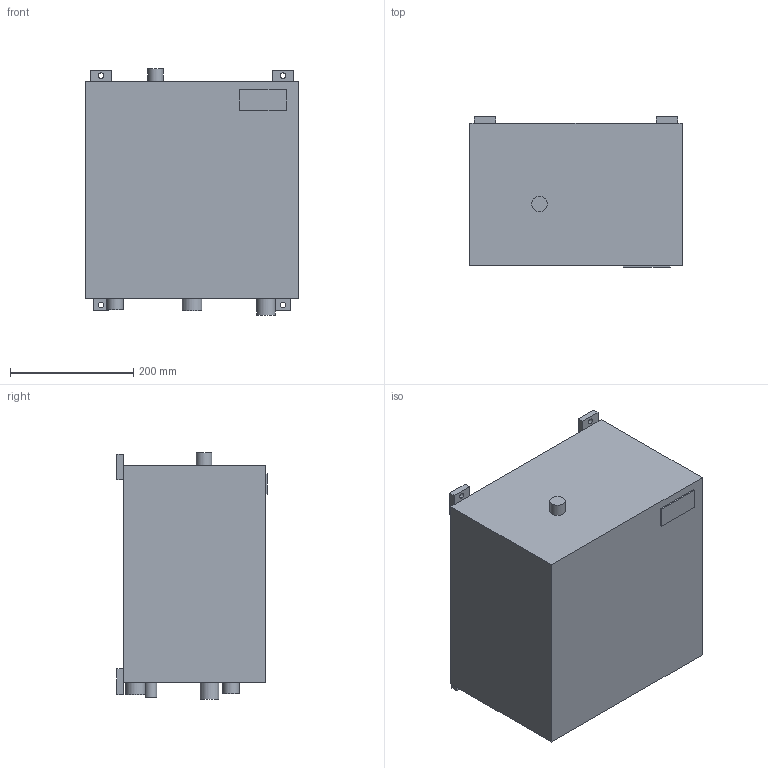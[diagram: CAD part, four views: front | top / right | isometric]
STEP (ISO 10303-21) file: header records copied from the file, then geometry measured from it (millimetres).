
FILE_DESCRIPTION(/* description */ ('AP214'),/* implementation_level */ '2;1');
FILE_NAME(/* name */ 'SLE02-V',/* time_stamp */ '2018-04-05T09:56:10+02:00',/* author */ ('M.Schreck'),/* organization */ ('Hygromatik'),/* preprocessor_version */ 'ST-DEVELOPER v16.7',/* originating_system */ 'DEX',/* authorisation */ $);
FILE_SCHEMA (('AUTOMOTIVE_DESIGN {1 0 10303 214 3 1 1}'));
Length unit declared in the file: millimetre
Products named in the file (1): SLE02-V
Bounding box: 346 x 243.4 x 399.47 mm (x, y, z)
Volume: 28250876.5 mm3; surface area: 586733.9 mm2
Topology: 1 solids, 1 shells, 49 faces, 121 edges, 80 vertices
Faces by surface type: plane 40, cylinder 9
Full cylindrical faces by diameter (mm): 9 x4, 19 x1, 25 x1, 26.494 x1, 30 x1, 32 x1
Entity records: 1384 total; most frequent: CARTESIAN_POINT 230, DIRECTION 224, ORIENTED_EDGE 212, EDGE_CURVE 106, LINE 88, VECTOR 88, VERTEX_POINT 74, EDGE_LOOP 72
